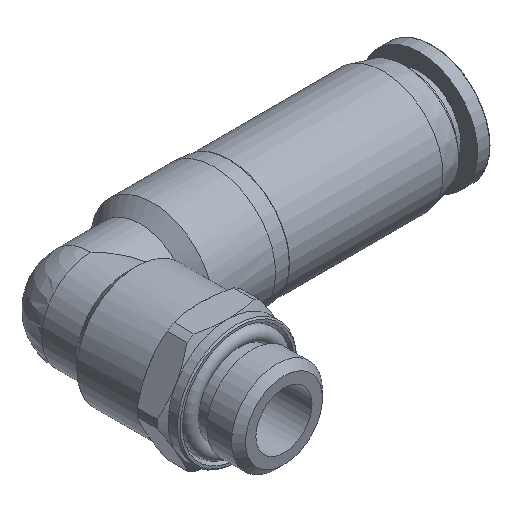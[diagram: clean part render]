
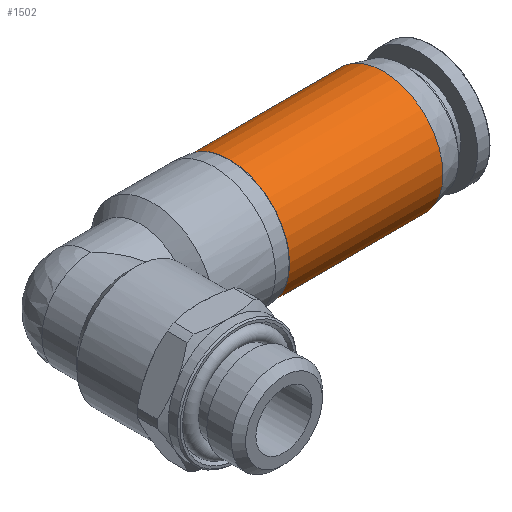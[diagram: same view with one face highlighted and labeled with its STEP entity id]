
A CAD part, isometric view. The second image highlights one B-rep face of the part: STEP entity #1502.
In plain terms, the highlighted cylindrical face has radius 8.5 mm (diameter 17 mm), a full revolution.
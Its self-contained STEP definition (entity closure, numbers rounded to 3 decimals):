
#1475=CARTESIAN_POINT('',(30.7,15.5,0.0));
#1476=DIRECTION('',(1.0,0.,0.0));
#1477=DIRECTION('',(0.,1.0,0.0));
#1478=AXIS2_PLACEMENT_3D('',#1475,#1476,#1477);
#1479=CYLINDRICAL_SURFACE('',#1478,8.5);
#1480=CARTESIAN_POINT('',(41.65,24.,0.0));
#1481=VERTEX_POINT('',#1480);
#1482=CARTESIAN_POINT('',(41.65,15.5,0.0));
#1483=DIRECTION('',(1.0,0.,0.0));
#1484=DIRECTION('',(0.,1.0,0.0));
#1485=AXIS2_PLACEMENT_3D('',#1482,#1483,#1484);
#1486=CIRCLE('',#1485,8.5);
#1487=EDGE_CURVE('',#1481,#1481,#1486,.T.);
#1488=ORIENTED_EDGE('',*,*,#1487,.F.);
#1489=EDGE_LOOP('',(#1488));
#1490=FACE_OUTER_BOUND('',#1489,.T.);
#1491=CARTESIAN_POINT('',(19.75,24.,0.0));
#1492=VERTEX_POINT('',#1491);
#1493=CARTESIAN_POINT('',(19.75,15.5,0.0));
#1494=DIRECTION('',(-1.0,0.,0.0));
#1495=DIRECTION('',(0.,1.0,0.0));
#1496=AXIS2_PLACEMENT_3D('',#1493,#1494,#1495);
#1497=CIRCLE('',#1496,8.5);
#1498=EDGE_CURVE('',#1492,#1492,#1497,.T.);
#1499=ORIENTED_EDGE('',*,*,#1498,.F.);
#1500=EDGE_LOOP('',(#1499));
#1501=FACE_BOUND('',#1500,.T.);
#1502=ADVANCED_FACE('',(#1490,#1501),#1479,.T.);
